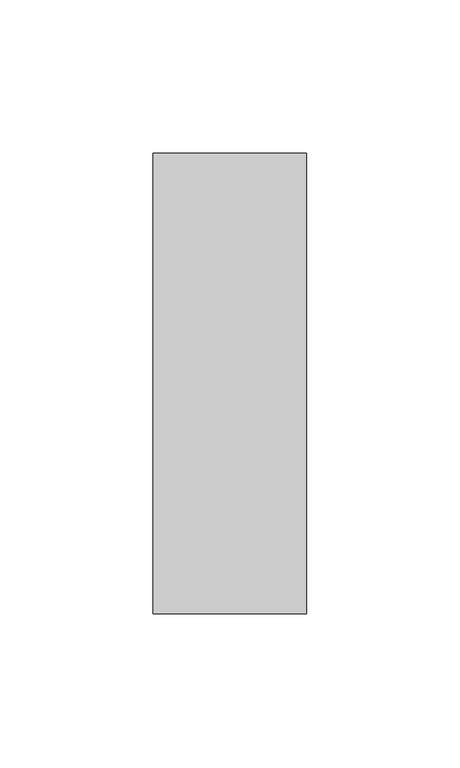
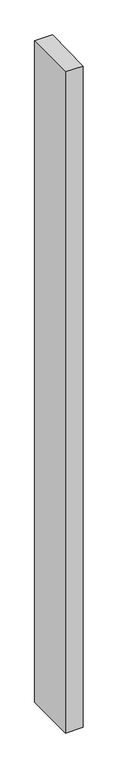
"""IFC4 building model written with IfcOpenShell, lengths in millimetres: member geometry, Прямоугольный импост : 50 x 150 мм."""

from ifc_helpers import new_model, si_unit, origin, place, context, project, spatial, faceted_brep, source, transform, mapped, element, save


def member_51f69e22(model_context):
    return source(origin(), model_context, "Body", "Brep", [
        faceted_brep([(-25.0, 75.0, 0.8688528), (25.0, 75.0, 1.0534879), (25.0, 75.0, -1974.091348), (-25.0, 75.0, -1973.911166), (-25.0, -75.0, -1.0534879), (-25.0, -75.0, -1974.1065593), (25.0, -75.0, -0.8688528), (25.0, -75.0, -1974.2867412)], [[[0, 1, 2, 3]], [[4, 0, 3, 5]], [[6, 4, 5, 7]], [[1, 6, 7, 2]], [[1, 0, 4, 6]], [[2, 7, 5, 3]]]),
    ])


if __name__ == "__main__":
    model = new_model("IFC4")
    model_context = context("Model", 3, world=origin())
    ifc_project = project(units=[si_unit("LENGTHUNIT", "METRE", prefix="MILLI")], contexts=[model_context])
    site = spatial("IfcSite", under=ifc_project)
    building = spatial("IfcBuilding", under=site)
    placement = place(None, origin())
    member_shape = member_51f69e22(model_context)
    element("IfcMember", 1, ObjectType="Прямоугольный импост : 50 x 150 мм", at=placement, inside=building, context=model_context, shape_type="MappedRepresentation", body=[
        mapped(member_shape, transform((0.0, 0.0, 0.0), x_axis=(1.0, 0.0, 0.0), y_axis=(0.0, 1.0, 0.0), z_axis=(0.0, 0.0, 1.0))),
    ])
    save(model, "model.ifc")
